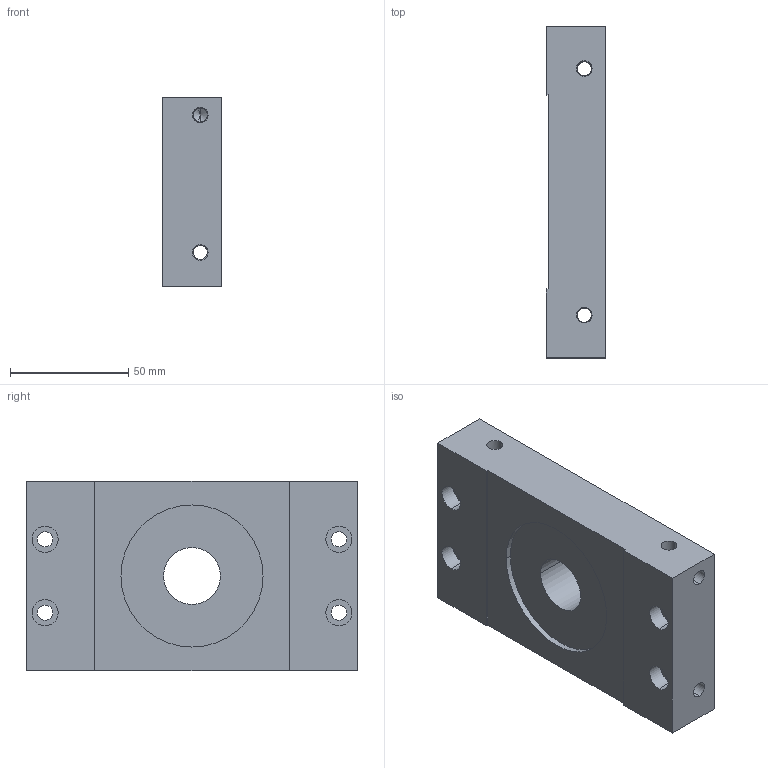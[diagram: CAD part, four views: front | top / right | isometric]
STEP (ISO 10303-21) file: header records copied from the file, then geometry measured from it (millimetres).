
FILE_DESCRIPTION (( 'STEP AP203' ), '1' );
FILE_NAME ('bloc_empreinte_PF_ph500.STEP', '2021-09-09T10:21:52', ( '' ), ( '' ), 'SwSTEP 2.0', 'SolidWorks 2019', '' );
FILE_SCHEMA (( 'CONFIG_CONTROL_DESIGN' ));
Length unit declared in the file: millimetre
Products named in the file (1): bloc_empreinte_PF_ph500
Bounding box: 25 x 140 x 80 mm (x, y, z)
Volume: 240499.1 mm3; surface area: 44257 mm2
Topology: 1 solids, 1 shells, 117 faces, 286 edges, 164 vertices
Faces by surface type: cylinder 74, cone 28, plane 15
Entity records: 3785 total; most frequent: CARTESIAN_POINT 1012, DIRECTION 574, ORIENTED_EDGE 556, EDGE_CURVE 278, AXIS2_PLACEMENT_3D 230, VERTEX_POINT 164, EDGE_LOOP 146, FACE_OUTER_BOUND 117
